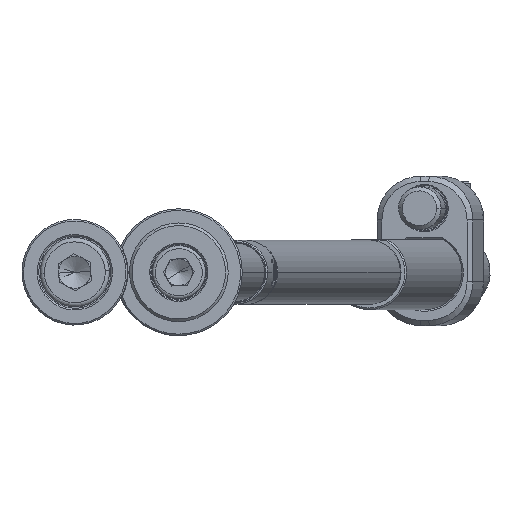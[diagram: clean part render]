
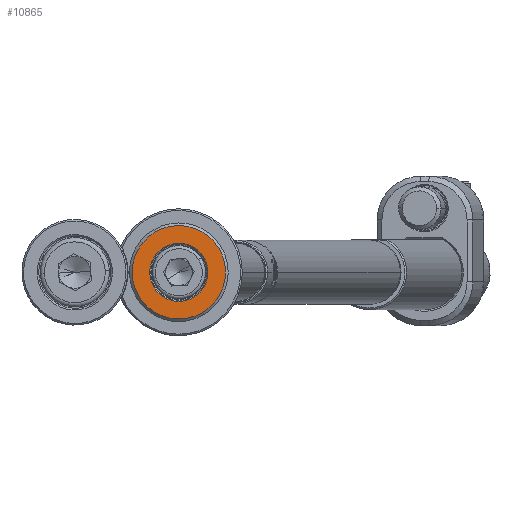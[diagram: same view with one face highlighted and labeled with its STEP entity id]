
A CAD part, front view. The second image highlights one B-rep face of the part: STEP entity #10865.
In plain terms, the highlighted planar face has unit normal (0, -1, 0).
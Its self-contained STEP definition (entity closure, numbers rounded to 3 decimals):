
#78 = CARTESIAN_POINT ( 'NONE',  ( 2.753, -4., -4.704 ) ) ;
#851 = PLANE ( 'NONE',  #1883 ) ;
#1196 = CIRCLE ( 'NONE', #13022, 8.75 ) ;
#1208 = EDGE_CURVE ( 'NONE', #1418, #4595, #8987, .T. ) ;
#1418 = VERTEX_POINT ( 'NONE', #2680 ) ;
#1658 = FACE_BOUND ( 'NONE', #10613, .T. ) ;
#1814 = CARTESIAN_POINT ( 'NONE',  ( -4.531, -4., -2.652 ) ) ;
#1815 = DIRECTION ( 'NONE',  ( -0.505, 0., 0.863 ) ) ;
#1879 = DIRECTION ( 'NONE',  ( 0., 1., 0. ) ) ;
#1883 = AXIS2_PLACEMENT_3D ( 'NONE', #1814, #13998, #2979 ) ;
#2271 = VERTEX_POINT ( 'NONE', #4723 ) ;
#2361 = DIRECTION ( 'NONE',  ( 0., -1., 0. ) ) ;
#2450 = EDGE_CURVE ( 'NONE', #4595, #1418, #10305, .T. ) ;
#2680 = CARTESIAN_POINT ( 'NONE',  ( -2.753, -4., 4.704 ) ) ;
#2724 = EDGE_LOOP ( 'NONE', ( #10940, #12044 ) ) ;
#2979 = DIRECTION ( 'NONE',  ( -0.505, 0., 0.863 ) ) ;
#3041 = DIRECTION ( 'NONE',  ( -0.505, 0., 0.863 ) ) ;
#3117 = VERTEX_POINT ( 'NONE', #13755 ) ;
#3586 = CARTESIAN_POINT ( 'NONE',  ( 0., -4., 0. ) ) ;
#3795 = DIRECTION ( 'NONE',  ( -0.505, 0., 0.863 ) ) ;
#4117 = CARTESIAN_POINT ( 'NONE',  ( 0., -4., 0. ) ) ;
#4595 = VERTEX_POINT ( 'NONE', #78 ) ;
#4723 = CARTESIAN_POINT ( 'NONE',  ( 4.42, -4., -7.552 ) ) ;
#4809 = DIRECTION ( 'NONE',  ( -0.505, 0., 0.863 ) ) ;
#7177 = FACE_OUTER_BOUND ( 'NONE', #2724, .T. ) ;
#7778 = ORIENTED_EDGE ( 'NONE', *, *, #1208, .T. ) ;
#8209 = DIRECTION ( 'NONE',  ( 0., -1., 0. ) ) ;
#8417 = CIRCLE ( 'NONE', #12095, 8.75 ) ;
#8881 = ORIENTED_EDGE ( 'NONE', *, *, #2450, .T. ) ;
#8987 = CIRCLE ( 'NONE', #11501, 5.45 ) ;
#9594 = EDGE_CURVE ( 'NONE', #3117, #2271, #8417, .T. ) ;
#10305 = CIRCLE ( 'NONE', #14013, 5.45 ) ;
#10613 = EDGE_LOOP ( 'NONE', ( #8881, #7778 ) ) ;
#10804 = DIRECTION ( 'NONE',  ( 0., 1., 0. ) ) ;
#10865 = ADVANCED_FACE ( 'NONE', ( #1658, #7177 ), #851, .F. ) ;
#10940 = ORIENTED_EDGE ( 'NONE', *, *, #9594, .T. ) ;
#11126 = EDGE_CURVE ( 'NONE', #2271, #3117, #1196, .T. ) ;
#11501 = AXIS2_PLACEMENT_3D ( 'NONE', #11878, #1879, #3041 ) ;
#11878 = CARTESIAN_POINT ( 'NONE',  ( 0., -4., 0. ) ) ;
#12044 = ORIENTED_EDGE ( 'NONE', *, *, #11126, .T. ) ;
#12095 = AXIS2_PLACEMENT_3D ( 'NONE', #3586, #2361, #4809 ) ;
#13022 = AXIS2_PLACEMENT_3D ( 'NONE', #13607, #8209, #3795 ) ;
#13607 = CARTESIAN_POINT ( 'NONE',  ( 0., -4., 0. ) ) ;
#13755 = CARTESIAN_POINT ( 'NONE',  ( -4.42, -4., 7.552 ) ) ;
#13998 = DIRECTION ( 'NONE',  ( 0., 1., 0. ) ) ;
#14013 = AXIS2_PLACEMENT_3D ( 'NONE', #4117, #10804, #1815 ) ;
